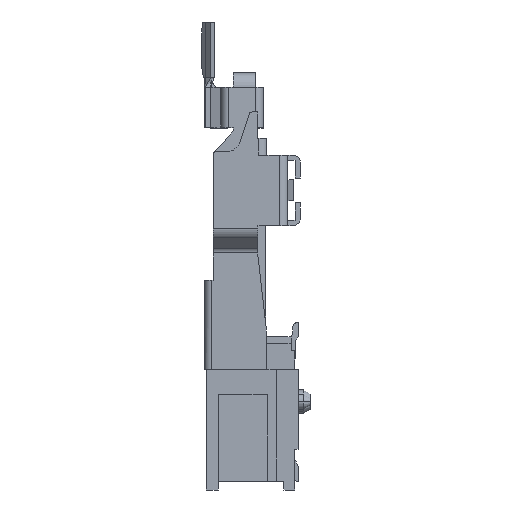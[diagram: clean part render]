
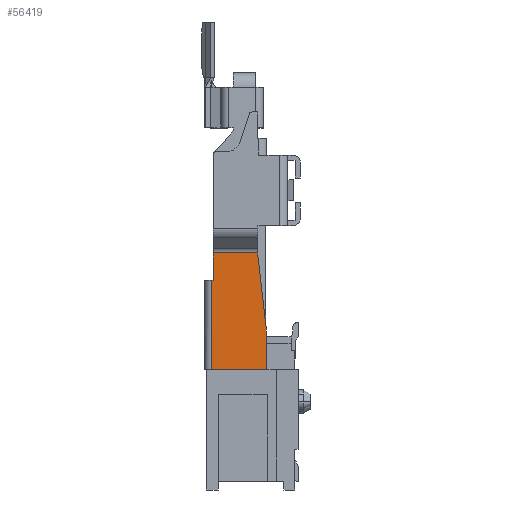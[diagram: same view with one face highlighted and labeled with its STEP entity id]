
A CAD part, left-side view. The second image highlights one B-rep face of the part: STEP entity #56419.
In plain terms, the highlighted planar face has unit normal (-1, 0, 0).
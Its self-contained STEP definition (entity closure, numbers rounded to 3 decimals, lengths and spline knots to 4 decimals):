
#1380=DIRECTION('',(0.,-1.,0.));
#1381=VECTOR('',#1380,0.1);
#1382=CARTESIAN_POINT('',(-34.75,2.205,5.05));
#1383=LINE('',#1382,#1381);
#1605=DIRECTION('',(0.,1.,0.));
#1606=VECTOR('',#1605,3.15);
#1607=CARTESIAN_POINT('',(-34.75,-0.945,0.));
#1608=LINE('',#1607,#1606);
#1609=DIRECTION('',(0.,0.,1.));
#1610=VECTOR('',#1609,5.05);
#1611=CARTESIAN_POINT('',(-34.75,2.205,0.));
#1612=LINE('',#1611,#1610);
#1613=DIRECTION('',(0.,0.,-1.));
#1614=VECTOR('',#1613,0.2);
#1615=CARTESIAN_POINT('',(-34.75,-0.445,6.6));
#1616=LINE('',#1615,#1614);
#1617=DIRECTION('',(0.,-0.113,-0.994));
#1618=VECTOR('',#1617,4.4283);
#1619=CARTESIAN_POINT('',(-34.75,-0.445,6.4));
#1620=LINE('',#1619,#1618);
#1669=DIRECTION('',(0.,0.,1.));
#1670=VECTOR('',#1669,1.55);
#1671=CARTESIAN_POINT('',(-34.75,2.105,5.05));
#1672=LINE('',#1671,#1670);
#1749=DIRECTION('',(0.,0.,1.));
#1750=VECTOR('',#1749,2.);
#1751=CARTESIAN_POINT('',(-34.75,-0.945,0.));
#1752=LINE('',#1751,#1750);
#40528=DIRECTION('',(0.,1.,0.));
#40529=VECTOR('',#40528,2.55);
#40530=CARTESIAN_POINT('',(-34.75,-0.445,6.6));
#40531=LINE('',#40530,#40529);
#41318=CARTESIAN_POINT('',(-34.75,2.105,6.6));
#41320=VERTEX_POINT('',#41318);
#41334=CARTESIAN_POINT('',(-34.75,-0.945,0.));
#41336=VERTEX_POINT('',#41334);
#41338=CARTESIAN_POINT('',(-34.75,-0.945,2.));
#41340=VERTEX_POINT('',#41338);
#41346=CARTESIAN_POINT('',(-34.75,-0.445,6.6));
#41347=CARTESIAN_POINT('',(-34.75,-0.445,6.4));
#41348=VERTEX_POINT('',#41346);
#41349=VERTEX_POINT('',#41347);
#41399=CARTESIAN_POINT('',(-34.75,2.205,5.05));
#41401=VERTEX_POINT('',#41399);
#41411=CARTESIAN_POINT('',(-34.75,2.205,0.));
#41413=VERTEX_POINT('',#41411);
#41415=CARTESIAN_POINT('',(-34.75,2.105,5.05));
#41417=VERTEX_POINT('',#41415);
#56399=CARTESIAN_POINT('',(-34.75,-0.945,0.));
#56400=DIRECTION('',(-1.,0.,0.));
#56401=DIRECTION('',(0.,0.,1.));
#56402=AXIS2_PLACEMENT_3D('',#56399,#56400,#56401);
#56403=PLANE('',#56402);
#56404=ORIENTED_EDGE('',*,*,#56255,.T.);
#56405=ORIENTED_EDGE('',*,*,#56391,.T.);
#56406=ORIENTED_EDGE('',*,*,#56183,.T.);
#56408=ORIENTED_EDGE('',*,*,#56407,.T.);
#56410=ORIENTED_EDGE('',*,*,#56409,.F.);
#56412=ORIENTED_EDGE('',*,*,#56411,.T.);
#56414=ORIENTED_EDGE('',*,*,#56413,.T.);
#56416=ORIENTED_EDGE('',*,*,#56415,.F.);
#56417=EDGE_LOOP('',(#56404,#56405,#56406,#56408,#56410,#56412,#56414,#56416));
#56418=FACE_OUTER_BOUND('',#56417,.F.);
#56419=ADVANCED_FACE('',(#56418),#56403,.T.);
#56183=EDGE_CURVE('',#41401,#41417,#1383,.T.);
#56255=EDGE_CURVE('',#41336,#41413,#1608,.T.);
#56391=EDGE_CURVE('',#41413,#41401,#1612,.T.);
#56407=EDGE_CURVE('',#41417,#41320,#1672,.T.);
#56409=EDGE_CURVE('',#41348,#41320,#40531,.T.);
#56411=EDGE_CURVE('',#41348,#41349,#1616,.T.);
#56413=EDGE_CURVE('',#41349,#41340,#1620,.T.);
#56415=EDGE_CURVE('',#41336,#41340,#1752,.T.);
